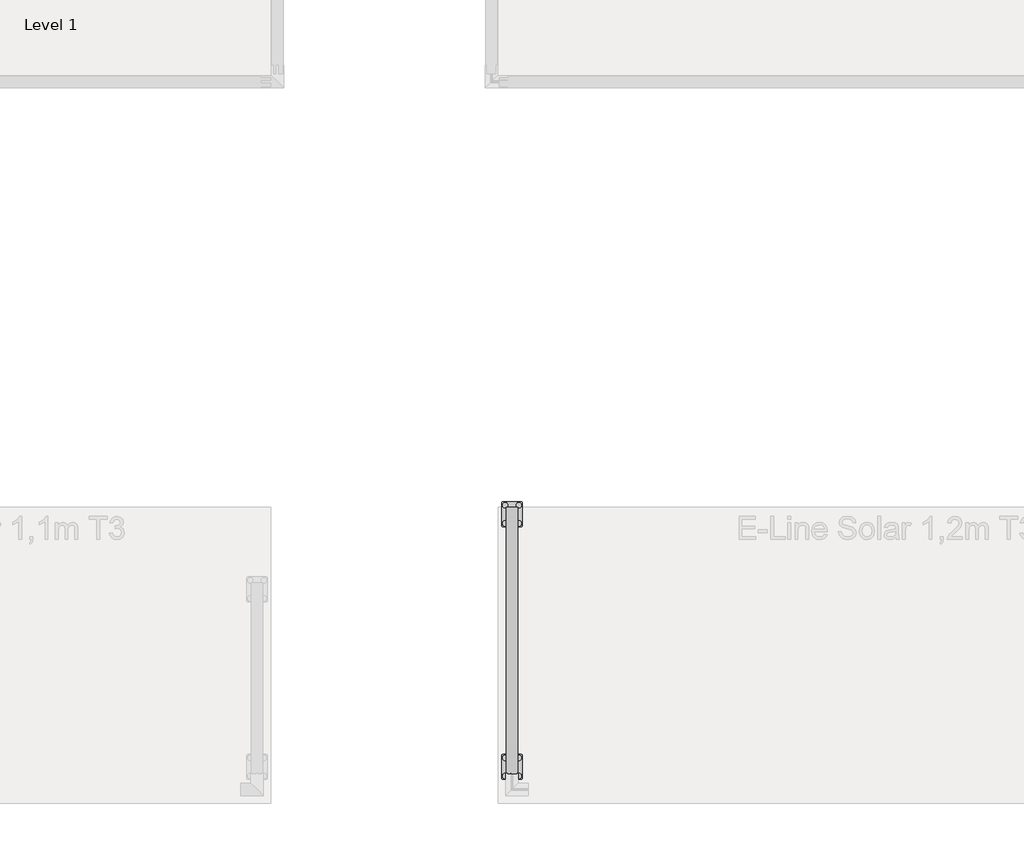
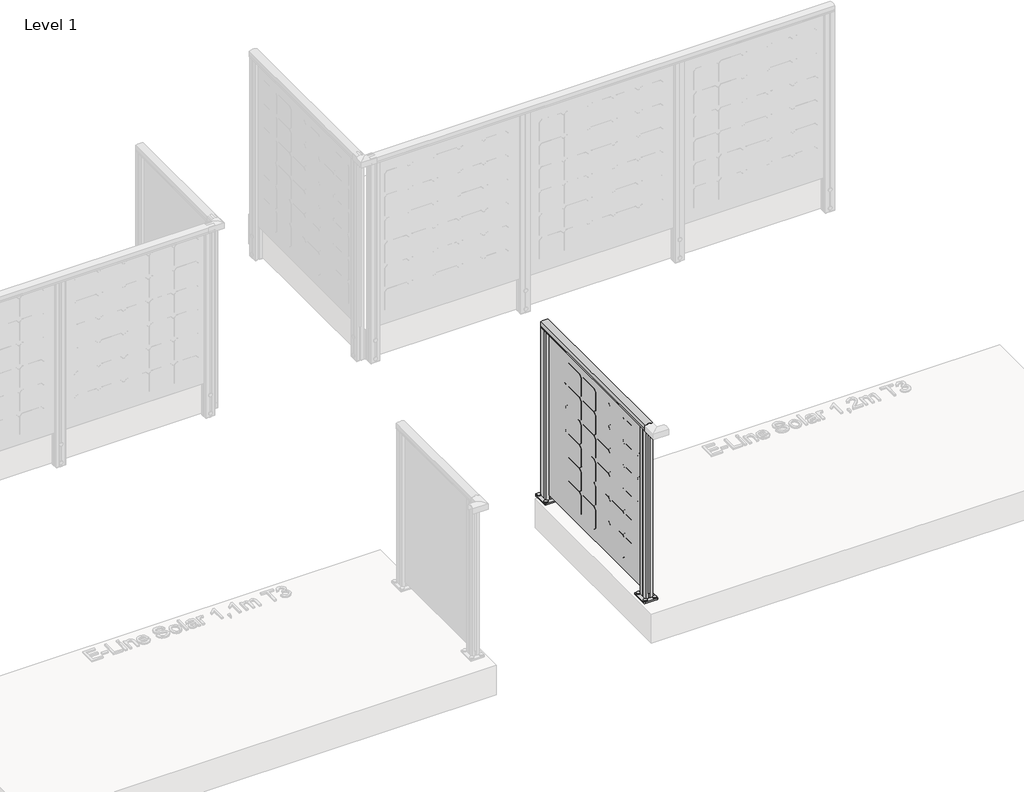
# One storey, part 26 of 66: 1 railing.
"""IFC4 building model written with IfcOpenShell, lengths in millimetres."""

from ifc_helpers import new_model, si_unit, point, frame, frame_2d, origin, origin_with_axes, place, context, project, spatial, polyline, circle_curve, trimmed, segment, composite_curve, outline, extrude, element, save

model = new_model("IFC4")

# Units and contexts
model_context = context("Model", 3, world=origin())
ifc_project = project(units=[si_unit("LENGTHUNIT", "METRE", prefix="MILLI")], contexts=[model_context])

# Site, building, storey
site = spatial("IfcSite", under=ifc_project)
building = spatial("IfcBuilding", under=site)
storey = spatial("IfcBuildingStorey", under=building, Name="Level 1", Elevation=0.0)

# Railing
placement = place(None, origin())
element("IfcRailing", 1, ObjectType="E-Line Solar 1,2m T3 6 columns of solar elements", at=placement, inside=storey, context=model_context, shape_type="SweptSolid", body=[
    extrude(outline(composite_curve([segment(trimmed(circle_curve(frame_2d((1142.6785502, 23357.2511266)), 57.3235687), [point((1194.1390059, 23382.5060869))], [point((1194.1342258, 23331.9864286))], False, "CARTESIAN"), True, "CONTINUOUS"), segment(polyline([(1194.1342258, 23331.9864286), (1167.0235023, 23331.9864286), (1166.4415706, 23332.5683604), (1165.8194895, 23331.9462793), (1157.2498847, 23331.9462793), (1157.2498847, 23333.7512322), (1180.4998829, 23333.7512322), (1180.4998829, 23380.7462783), (1157.2498847, 23380.7462783), (1157.2498847, 23382.5060869), (1165.9694895, 23382.5060869), (1166.5842725, 23381.8913039), (1167.1990555, 23382.5060869), (1194.1390059, 23382.5060869)]), True, "CONTINUOUS")], self_intersect=False)), frame((0.0, -2851.1184021, 0.0), z_axis=(0.0, 1.0, 0.0), x_axis=(0.0, 0.0, 1.0)), (0.0, 0.0, 1.0), 1170.0),
    extrude(outline(polyline([(23352.1463105, -1681.1184021), (23360.9063105, -1681.1184021), (23360.9063105, -2851.1184021), (23352.1463105, -2851.1184021), (23352.1463105, -1681.1184021)])), frame((0.0, 0.0, 40.0), z_axis=(0.0, 0.0, 1.0), x_axis=(1.0, 0.0, 0.0)), (0.0, 0.0, 1.0), 1140.0),
    extrude(outline(polyline([(0.0, 0.0), (16.036927, -16.036927), (16.036927, -139.963073), (0.0, -156.0), (-123.9261459, -156.0), (-139.963073, -139.963073), (-139.963073, -16.036927), (-123.9261459, 0.0), (0.0, 0.0)])), frame((23352.0263105, -1941.6184021, 1059.4156895), z_axis=(1.0, 5.7872079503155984e-12, 0.0), x_axis=(0.0, 0.0, 1.0)), (0.0, 0.0, 1.0), 1.0),
    extrude(outline(polyline([(0.0, 0.0), (16.036927, -16.036927), (16.036927, -139.963073), (0.0, -156.0), (-123.9261459, -156.0), (-139.963073, -139.963073), (-139.963073, -16.036927), (-123.9261459, 0.0), (0.0, 0.0)])), frame((23352.0263105, -2102.6184021, 1059.4156895), z_axis=(1.0, 5.7872079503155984e-12, 0.0), x_axis=(0.0, 0.0, 1.0)), (0.0, 0.0, 1.0), 1.0),
    extrude(outline(polyline([(0.0, 0.0), (16.036927, -16.036927), (16.036927, -139.963073), (0.0, -156.0), (-123.9261459, -156.0), (-139.963073, -139.963073), (-139.963073, -16.036927), (-123.9261459, 0.0), (0.0, 0.0)])), frame((23352.0263105, -2263.6184021, 1059.4156895), z_axis=(1.0, 5.7872079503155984e-12, 0.0), x_axis=(0.0, 0.0, 1.0)), (0.0, 0.0, 1.0), 1.0),
    extrude(outline(polyline([(0.0, 0.0), (16.036927, -16.036927), (16.036927, -139.963073), (0.0, -156.0), (-123.9261459, -156.0), (-139.963073, -139.963073), (-139.963073, -16.036927), (-123.9261459, 0.0), (0.0, 0.0)])), frame((23352.0263105, -2746.6184021, 1059.4156895), z_axis=(1.0, 5.7872079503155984e-12, 0.0), x_axis=(0.0, 0.0, 1.0)), (0.0, 0.0, 1.0), 1.0),
    extrude(outline(polyline([(0.0, 0.0), (16.036927, -16.036927), (16.036927, -139.963073), (0.0, -156.0), (-123.9261459, -156.0), (-139.963073, -139.963073), (-139.963073, -16.036927), (-123.9261459, 0.0), (0.0, 0.0)])), frame((23352.0263105, -2585.6184021, 1059.4156895), z_axis=(1.0, 5.7872079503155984e-12, 0.0), x_axis=(0.0, 0.0, 1.0)), (0.0, 0.0, 1.0), 1.0),
    extrude(outline(polyline([(0.0, 0.0), (16.036927, -16.036927), (16.036927, -139.963073), (0.0, -156.0), (-123.9261459, -156.0), (-139.963073, -139.963073), (-139.963073, -16.036927), (-123.9261459, 0.0), (0.0, 0.0)])), frame((23352.0263105, -2424.6184021, 1059.4156895), z_axis=(1.0, 5.7872079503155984e-12, 0.0), x_axis=(0.0, 0.0, 1.0)), (0.0, 0.0, 1.0), 1.0),
    extrude(outline(polyline([(0.0, 0.0), (16.036927, -16.036927), (16.036927, -139.963073), (0.0, -156.0), (-123.9261459, -156.0), (-139.963073, -139.963073), (-139.963073, -16.036927), (-123.9261459, 0.0), (0.0, 0.0)])), frame((23352.0263105, -1941.6184021, 898.4156895), z_axis=(1.0, 5.7872079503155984e-12, 0.0), x_axis=(0.0, 0.0, 1.0)), (0.0, 0.0, 1.0), 1.0),
    extrude(outline(polyline([(0.0, 0.0), (16.036927, -16.036927), (16.036927, -139.963073), (0.0, -156.0), (-123.9261459, -156.0), (-139.963073, -139.963073), (-139.963073, -16.036927), (-123.9261459, 0.0), (0.0, 0.0)])), frame((23352.0263105, -1941.6184021, 737.4156895), z_axis=(1.0, 5.7872079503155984e-12, 0.0), x_axis=(0.0, 0.0, 1.0)), (0.0, 0.0, 1.0), 1.0),
    extrude(outline(polyline([(0.0, 0.0), (16.036927, -16.036927), (16.036927, -139.963073), (0.0, -156.0), (-123.9261459, -156.0), (-139.963073, -139.963073), (-139.963073, -16.036927), (-123.9261459, 0.0), (0.0, 0.0)])), frame((23352.0263105, -1941.6184021, 576.4156895), z_axis=(1.0, 5.7872079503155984e-12, 0.0), x_axis=(0.0, 0.0, 1.0)), (0.0, 0.0, 1.0), 1.0),
    extrude(outline(polyline([(0.0, 0.0), (16.036927, -16.036927), (16.036927, -139.963073), (0.0, -156.0), (-123.9261459, -156.0), (-139.963073, -139.963073), (-139.963073, -16.036927), (-123.9261459, 0.0), (0.0, 0.0)])), frame((23352.0263105, -1941.6184021, 415.4156895), z_axis=(1.0, 5.7872079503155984e-12, 0.0), x_axis=(0.0, 0.0, 1.0)), (0.0, 0.0, 1.0), 1.0),
    extrude(outline(polyline([(0.0, 0.0), (16.036927, -16.036927), (16.036927, -139.963073), (0.0, -156.0), (-123.9261459, -156.0), (-139.963073, -139.963073), (-139.963073, -16.036927), (-123.9261459, 0.0), (0.0, 0.0)])), frame((23352.0263105, -1941.6184021, 254.4156895), z_axis=(1.0, 5.7872079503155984e-12, 0.0), x_axis=(0.0, 0.0, 1.0)), (0.0, 0.0, 1.0), 1.0),
    extrude(outline(polyline([(0.0, 0.0), (16.036927, -16.036927), (16.036927, -139.963073), (0.0, -156.0), (-123.9261459, -156.0), (-139.963073, -139.963073), (-139.963073, -16.036927), (-123.9261459, 0.0), (0.0, 0.0)])), frame((23352.0263105, -2102.6184021, 898.4156895), z_axis=(1.0, 5.7872079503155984e-12, 0.0), x_axis=(0.0, 0.0, 1.0)), (0.0, 0.0, 1.0), 1.0),
    extrude(outline(polyline([(0.0, 0.0), (16.036927, -16.036927), (16.036927, -139.963073), (0.0, -156.0), (-123.9261459, -156.0), (-139.963073, -139.963073), (-139.963073, -16.036927), (-123.9261459, 0.0), (0.0, 0.0)])), frame((23352.0263105, -2102.6184021, 737.4156895), z_axis=(1.0, 5.7872079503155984e-12, 0.0), x_axis=(0.0, 0.0, 1.0)), (0.0, 0.0, 1.0), 1.0),
    extrude(outline(polyline([(0.0, 0.0), (16.036927, -16.036927), (16.036927, -139.963073), (0.0, -156.0), (-123.9261459, -156.0), (-139.963073, -139.963073), (-139.963073, -16.036927), (-123.9261459, 0.0), (0.0, 0.0)])), frame((23352.0263105, -2102.6184021, 576.4156895), z_axis=(1.0, 5.7872079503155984e-12, 0.0), x_axis=(0.0, 0.0, 1.0)), (0.0, 0.0, 1.0), 1.0),
    extrude(outline(polyline([(0.0, 0.0), (16.036927, -16.036927), (16.036927, -139.963073), (0.0, -156.0), (-123.9261459, -156.0), (-139.963073, -139.963073), (-139.963073, -16.036927), (-123.9261459, 0.0), (0.0, 0.0)])), frame((23352.0263105, -2102.6184021, 415.4156895), z_axis=(1.0, 5.7872079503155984e-12, 0.0), x_axis=(0.0, 0.0, 1.0)), (0.0, 0.0, 1.0), 1.0),
    extrude(outline(polyline([(0.0, 0.0), (16.036927, -16.036927), (16.036927, -139.963073), (0.0, -156.0), (-123.9261459, -156.0), (-139.963073, -139.963073), (-139.963073, -16.036927), (-123.9261459, 0.0), (0.0, 0.0)])), frame((23352.0263105, -2102.6184021, 254.4156895), z_axis=(1.0, 5.7872079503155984e-12, 0.0), x_axis=(0.0, 0.0, 1.0)), (0.0, 0.0, 1.0), 1.0),
    extrude(outline(polyline([(0.0, 0.0), (16.036927, -16.036927), (16.036927, -139.963073), (0.0, -156.0), (-123.9261459, -156.0), (-139.963073, -139.963073), (-139.963073, -16.036927), (-123.9261459, 0.0), (0.0, 0.0)])), frame((23352.0263105, -2263.6184021, 898.4156895), z_axis=(1.0, 5.7872079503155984e-12, 0.0), x_axis=(0.0, 0.0, 1.0)), (0.0, 0.0, 1.0), 1.0),
    extrude(outline(polyline([(0.0, 0.0), (16.036927, -16.036927), (16.036927, -139.963073), (0.0, -156.0), (-123.9261459, -156.0), (-139.963073, -139.963073), (-139.963073, -16.036927), (-123.9261459, 0.0), (0.0, 0.0)])), frame((23352.0263105, -2263.6184021, 737.4156895), z_axis=(1.0, 5.7872079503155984e-12, 0.0), x_axis=(0.0, 0.0, 1.0)), (0.0, 0.0, 1.0), 1.0),
    extrude(outline(polyline([(0.0, 0.0), (16.036927, -16.036927), (16.036927, -139.963073), (0.0, -156.0), (-123.9261459, -156.0), (-139.963073, -139.963073), (-139.963073, -16.036927), (-123.9261459, 0.0), (0.0, 0.0)])), frame((23352.0263105, -2263.6184021, 576.4156895), z_axis=(1.0, 5.7872079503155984e-12, 0.0), x_axis=(0.0, 0.0, 1.0)), (0.0, 0.0, 1.0), 1.0),
    extrude(outline(polyline([(0.0, 0.0), (16.036927, -16.036927), (16.036927, -139.963073), (0.0, -156.0), (-123.9261459, -156.0), (-139.963073, -139.963073), (-139.963073, -16.036927), (-123.9261459, 0.0), (0.0, 0.0)])), frame((23352.0263105, -2263.6184021, 415.4156895), z_axis=(1.0, 5.7872079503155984e-12, 0.0), x_axis=(0.0, 0.0, 1.0)), (0.0, 0.0, 1.0), 1.0),
    extrude(outline(polyline([(0.0, 0.0), (16.036927, -16.036927), (16.036927, -139.963073), (0.0, -156.0), (-123.9261459, -156.0), (-139.963073, -139.963073), (-139.963073, -16.036927), (-123.9261459, 0.0), (0.0, 0.0)])), frame((23352.0263105, -2263.6184021, 254.4156895), z_axis=(1.0, 5.7872079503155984e-12, 0.0), x_axis=(0.0, 0.0, 1.0)), (0.0, 0.0, 1.0), 1.0),
    extrude(outline(polyline([(0.0, 0.0), (16.036927, -16.036927), (16.036927, -139.963073), (0.0, -156.0), (-123.9261459, -156.0), (-139.963073, -139.963073), (-139.963073, -16.036927), (-123.9261459, 0.0), (0.0, 0.0)])), frame((23352.0263105, -2746.6184021, 898.4156895), z_axis=(1.0, 5.7872079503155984e-12, 0.0), x_axis=(0.0, 0.0, 1.0)), (0.0, 0.0, 1.0), 1.0),
    extrude(outline(polyline([(0.0, 0.0), (16.036927, -16.036927), (16.036927, -139.963073), (0.0, -156.0), (-123.9261459, -156.0), (-139.963073, -139.963073), (-139.963073, -16.036927), (-123.9261459, 0.0), (0.0, 0.0)])), frame((23352.0263105, -2746.6184021, 737.4156895), z_axis=(1.0, 5.7872079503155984e-12, 0.0), x_axis=(0.0, 0.0, 1.0)), (0.0, 0.0, 1.0), 1.0),
    extrude(outline(polyline([(0.0, 0.0), (16.036927, -16.036927), (16.036927, -139.963073), (0.0, -156.0), (-123.9261459, -156.0), (-139.963073, -139.963073), (-139.963073, -16.036927), (-123.9261459, 0.0), (0.0, 0.0)])), frame((23352.0263105, -2746.6184021, 576.4156895), z_axis=(1.0, 5.7872079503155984e-12, 0.0), x_axis=(0.0, 0.0, 1.0)), (0.0, 0.0, 1.0), 1.0),
    extrude(outline(polyline([(0.0, 0.0), (16.036927, -16.036927), (16.036927, -139.963073), (0.0, -156.0), (-123.9261459, -156.0), (-139.963073, -139.963073), (-139.963073, -16.036927), (-123.9261459, 0.0), (0.0, 0.0)])), frame((23352.0263105, -2746.6184021, 415.4156895), z_axis=(1.0, 5.7872079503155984e-12, 0.0), x_axis=(0.0, 0.0, 1.0)), (0.0, 0.0, 1.0), 1.0),
    extrude(outline(polyline([(0.0, 0.0), (16.036927, -16.036927), (16.036927, -139.963073), (0.0, -156.0), (-123.9261459, -156.0), (-139.963073, -139.963073), (-139.963073, -16.036927), (-123.9261459, 0.0), (0.0, 0.0)])), frame((23352.0263105, -2746.6184021, 254.4156895), z_axis=(1.0, 5.7872079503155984e-12, 0.0), x_axis=(0.0, 0.0, 1.0)), (0.0, 0.0, 1.0), 1.0),
    extrude(outline(polyline([(0.0, 0.0), (16.036927, -16.036927), (16.036927, -139.963073), (0.0, -156.0), (-123.9261459, -156.0), (-139.963073, -139.963073), (-139.963073, -16.036927), (-123.9261459, 0.0), (0.0, 0.0)])), frame((23352.0263105, -2585.6184021, 898.4156895), z_axis=(1.0, 5.7872079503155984e-12, 0.0), x_axis=(0.0, 0.0, 1.0)), (0.0, 0.0, 1.0), 1.0),
    extrude(outline(polyline([(0.0, 0.0), (16.036927, -16.036927), (16.036927, -139.963073), (0.0, -156.0), (-123.9261459, -156.0), (-139.963073, -139.963073), (-139.963073, -16.036927), (-123.9261459, 0.0), (0.0, 0.0)])), frame((23352.0263105, -2585.6184021, 737.4156895), z_axis=(1.0, 5.7872079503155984e-12, 0.0), x_axis=(0.0, 0.0, 1.0)), (0.0, 0.0, 1.0), 1.0),
    extrude(outline(polyline([(0.0, 0.0), (16.036927, -16.036927), (16.036927, -139.963073), (0.0, -156.0), (-123.9261459, -156.0), (-139.963073, -139.963073), (-139.963073, -16.036927), (-123.9261459, 0.0), (0.0, 0.0)])), frame((23352.0263105, -2585.6184021, 576.4156895), z_axis=(1.0, 5.7872079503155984e-12, 0.0), x_axis=(0.0, 0.0, 1.0)), (0.0, 0.0, 1.0), 1.0),
    extrude(outline(polyline([(0.0, 0.0), (16.036927, -16.036927), (16.036927, -139.963073), (0.0, -156.0), (-123.9261459, -156.0), (-139.963073, -139.963073), (-139.963073, -16.036927), (-123.9261459, 0.0), (0.0, 0.0)])), frame((23352.0263105, -2585.6184021, 415.4156895), z_axis=(1.0, 5.7872079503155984e-12, 0.0), x_axis=(0.0, 0.0, 1.0)), (0.0, 0.0, 1.0), 1.0),
    extrude(outline(polyline([(0.0, 0.0), (16.036927, -16.036927), (16.036927, -139.963073), (0.0, -156.0), (-123.9261459, -156.0), (-139.963073, -139.963073), (-139.963073, -16.036927), (-123.9261459, 0.0), (0.0, 0.0)])), frame((23352.0263105, -2585.6184021, 254.4156895), z_axis=(1.0, 5.7872079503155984e-12, 0.0), x_axis=(0.0, 0.0, 1.0)), (0.0, 0.0, 1.0), 1.0),
    extrude(outline(polyline([(0.0, 0.0), (16.036927, -16.036927), (16.036927, -139.963073), (0.0, -156.0), (-123.9261459, -156.0), (-139.963073, -139.963073), (-139.963073, -16.036927), (-123.9261459, 0.0), (0.0, 0.0)])), frame((23352.0263105, -2424.6184021, 898.4156895), z_axis=(1.0, 5.7872079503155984e-12, 0.0), x_axis=(0.0, 0.0, 1.0)), (0.0, 0.0, 1.0), 1.0),
    extrude(outline(polyline([(0.0, 0.0), (16.036927, -16.036927), (16.036927, -139.963073), (0.0, -156.0), (-123.9261459, -156.0), (-139.963073, -139.963073), (-139.963073, -16.036927), (-123.9261459, 0.0), (0.0, 0.0)])), frame((23352.0263105, -2424.6184021, 737.4156895), z_axis=(1.0, 5.7872079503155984e-12, 0.0), x_axis=(0.0, 0.0, 1.0)), (0.0, 0.0, 1.0), 1.0),
    extrude(outline(polyline([(0.0, 0.0), (16.036927, -16.036927), (16.036927, -139.963073), (0.0, -156.0), (-123.9261459, -156.0), (-139.963073, -139.963073), (-139.963073, -16.036927), (-123.9261459, 0.0), (0.0, 0.0)])), frame((23352.0263105, -2424.6184021, 576.4156895), z_axis=(1.0, 5.7872079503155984e-12, 0.0), x_axis=(0.0, 0.0, 1.0)), (0.0, 0.0, 1.0), 1.0),
    extrude(outline(polyline([(0.0, 0.0), (16.036927, -16.036927), (16.036927, -139.963073), (0.0, -156.0), (-123.9261459, -156.0), (-139.963073, -139.963073), (-139.963073, -16.036927), (-123.9261459, 0.0), (0.0, 0.0)])), frame((23352.0263105, -2424.6184021, 415.4156895), z_axis=(1.0, 5.7872079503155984e-12, 0.0), x_axis=(0.0, 0.0, 1.0)), (0.0, 0.0, 1.0), 1.0),
    extrude(outline(polyline([(0.0, 0.0), (16.036927, -16.036927), (16.036927, -139.963073), (0.0, -156.0), (-123.9261459, -156.0), (-139.963073, -139.963073), (-139.963073, -16.036927), (-123.9261459, 0.0), (0.0, 0.0)])), frame((23352.0263105, -2424.6184021, 254.4156895), z_axis=(1.0, 5.7872079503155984e-12, 0.0), x_axis=(0.0, 0.0, 1.0)), (0.0, 0.0, 1.0), 1.0),
    extrude(outline(composite_curve([segment(trimmed(circle_curve(frame_2d((23326.5263105, -2781.1184021)), 11.9621755), [point((23314.564135, -2781.1184021))], [point((23338.488486, -2781.1184021))], False, "CARTESIAN"), True, "CONTINUOUS"), segment(trimmed(circle_curve(frame_2d((23326.5263105, -2781.1184021)), 11.9621755), [point((23338.488486, -2781.1184021))], [point((23314.564135, -2781.1184021))], False, "CARTESIAN"), True, "CONTINUOUS")], self_intersect=False)), frame((0.0, 0.0, 10.0), z_axis=(0.0, 0.0, 1.0), x_axis=(1.0, 0.0, 0.0)), (0.0, 0.0, 1.0), 5.0),
    extrude(outline(composite_curve([segment(trimmed(circle_curve(frame_2d((23386.5263105, -2781.1184021)), 11.9621755), [point((23374.564135, -2781.1184021))], [point((23398.488486, -2781.1184021))], False, "CARTESIAN"), True, "CONTINUOUS"), segment(trimmed(circle_curve(frame_2d((23386.5263105, -2781.1184021)), 11.9621755), [point((23398.488486, -2781.1184021))], [point((23374.564135, -2781.1184021))], False, "CARTESIAN"), True, "CONTINUOUS")], self_intersect=False)), frame((0.0, 0.0, 10.0), z_axis=(0.0, 0.0, 1.0), x_axis=(1.0, 0.0, 0.0)), (0.0, 0.0, 1.0), 5.0),
    extrude(outline(composite_curve([segment(trimmed(circle_curve(frame_2d((23326.5263105, -2861.1184021)), 11.9621755), [point((23314.564135, -2861.1184021))], [point((23338.488486, -2861.1184021))], False, "CARTESIAN"), True, "CONTINUOUS"), segment(trimmed(circle_curve(frame_2d((23326.5263105, -2861.1184021)), 11.9621755), [point((23338.488486, -2861.1184021))], [point((23314.564135, -2861.1184021))], False, "CARTESIAN"), True, "CONTINUOUS")], self_intersect=False)), frame((0.0, 0.0, 10.0), z_axis=(0.0, 0.0, 1.0), x_axis=(1.0, 0.0, 0.0)), (0.0, 0.0, 1.0), 5.0),
    extrude(outline(composite_curve([segment(trimmed(circle_curve(frame_2d((23386.5263105, -2861.1184021)), 11.9621755), [point((23374.564135, -2861.1184021))], [point((23398.488486, -2861.1184021))], False, "CARTESIAN"), True, "CONTINUOUS"), segment(trimmed(circle_curve(frame_2d((23386.5263105, -2861.1184021)), 11.9621755), [point((23398.488486, -2861.1184021))], [point((23374.564135, -2861.1184021))], False, "CARTESIAN"), True, "CONTINUOUS")], self_intersect=False)), frame((0.0, 0.0, 10.0), z_axis=(0.0, 0.0, 1.0), x_axis=(1.0, 0.0, 0.0)), (0.0, 0.0, 1.0), 5.0),
    extrude(outline(composite_curve([segment(trimmed(circle_curve(frame_2d((23396.5263105, -2771.1184021)), 5.0), [point((23396.5263105, -2766.1184021))], [point((23401.5263105, -2771.1184021))], False, "CARTESIAN"), True, "CONTINUOUS"), segment(polyline([(23401.5263105, -2771.1184021), (23401.5263105, -2871.1184021)]), True, "CONTINUOUS"), segment(trimmed(circle_curve(frame_2d((23396.5263105, -2871.1184021)), 5.0), [point((23401.5263105, -2871.1184021))], [point((23396.5263105, -2876.1184021))], False, "CARTESIAN"), True, "CONTINUOUS"), segment(polyline([(23396.5263105, -2876.1184021), (23316.5263105, -2876.1184021)]), True, "CONTINUOUS"), segment(trimmed(circle_curve(frame_2d((23316.5263105, -2871.1184021)), 5.0), [point((23316.5263105, -2876.1184021))], [point((23311.5263105, -2871.1184021))], False, "CARTESIAN"), True, "CONTINUOUS"), segment(polyline([(23311.5263105, -2871.1184021), (23311.5263105, -2771.1184021)]), True, "CONTINUOUS"), segment(trimmed(circle_curve(frame_2d((23316.5263105, -2771.1184021)), 5.0), [point((23311.5263105, -2771.1184021))], [point((23316.5263105, -2766.1184021))], False, "CARTESIAN"), True, "CONTINUOUS"), segment(polyline([(23316.5263105, -2766.1184021), (23396.5263105, -2766.1184021)]), True, "CONTINUOUS")], self_intersect=False), holes=[composite_curve([segment(trimmed(circle_curve(frame_2d((23386.5263105, -2781.1184021)), 6.25), [point((23380.2763105, -2781.1184021))], [point((23392.7763105, -2781.1184021))], True, "CARTESIAN"), True, "CONTINUOUS"), segment(trimmed(circle_curve(frame_2d((23386.5263105, -2781.1184021)), 6.25), [point((23392.7763105, -2781.1184021))], [point((23380.2763105, -2781.1184021))], True, "CARTESIAN"), True, "CONTINUOUS")], self_intersect=False), composite_curve([segment(trimmed(circle_curve(frame_2d((23326.5263105, -2781.1184021)), 6.25), [point((23320.2763105, -2781.1184021))], [point((23332.7763105, -2781.1184021))], True, "CARTESIAN"), True, "CONTINUOUS"), segment(trimmed(circle_curve(frame_2d((23326.5263105, -2781.1184021)), 6.25), [point((23332.7763105, -2781.1184021))], [point((23320.2763105, -2781.1184021))], True, "CARTESIAN"), True, "CONTINUOUS")], self_intersect=False), composite_curve([segment(trimmed(circle_curve(frame_2d((23326.5263105, -2861.1184021)), 6.25), [point((23320.2763105, -2861.1184021))], [point((23332.7763105, -2861.1184021))], True, "CARTESIAN"), True, "CONTINUOUS"), segment(trimmed(circle_curve(frame_2d((23326.5263105, -2861.1184021)), 6.25), [point((23332.7763105, -2861.1184021))], [point((23320.2763105, -2861.1184021))], True, "CARTESIAN"), True, "CONTINUOUS")], self_intersect=False), composite_curve([segment(trimmed(circle_curve(frame_2d((23386.5263105, -2861.1184021)), 6.25), [point((23380.2763105, -2861.1184021))], [point((23392.7763105, -2861.1184021))], True, "CARTESIAN"), True, "CONTINUOUS"), segment(trimmed(circle_curve(frame_2d((23386.5263105, -2861.1184021)), 6.25), [point((23392.7763105, -2861.1184021))], [point((23380.2763105, -2861.1184021))], True, "CARTESIAN"), True, "CONTINUOUS")], self_intersect=False)]), origin_with_axes(), (0.0, 0.0, 1.0), 10.0),
    extrude(outline(polyline([(23352.1804485, -2851.116809), (23334.0354487, -2851.1194812), (23334.0311828, -2822.1524942), (23335.0593241, -2821.12405), (23334.0709345, -2820.1359515), (23334.0666613, -2791.119476), (23352.1716124, -2791.1168097), (23352.1741896, -2808.6168095), (23360.9341895, -2808.6155194), (23360.9316123, -2791.1155196), (23379.0266121, -2791.1128548), (23379.030878, -2820.0798417), (23378.1125457, -2821.1177096), (23378.9909678, -2821.995873), (23378.9952559, -2851.11286), (23360.9404484, -2851.1155189), (23360.9378712, -2833.6155191), (23352.1778713, -2833.6168092), (23352.1804485, -2851.116809)]), holes=[polyline([(23377.0323262, -2812.3191871), (23336.0297347, -2812.3191871), (23336.0297347, -2829.9131488), (23377.0323262, -2829.9131488), (23377.0323262, -2812.3191871)]), polyline([(23350.17444, -2793.1191873), (23336.0269071, -2793.1191873), (23336.0269071, -2810.317104), (23350.17444, -2810.317104), (23350.17444, -2793.1191873)]), polyline([(23377.0323262, -2793.115225), (23362.9319068, -2793.115225), (23362.9319068, -2810.3131487), (23377.0323262, -2810.3131487), (23377.0323262, -2793.115225)]), polyline([(23350.180154, -2831.9191868), (23336.0326211, -2831.9191868), (23336.0326211, -2849.1171035), (23350.180154, -2849.1171035), (23350.180154, -2831.9191868)]), polyline([(23377.0851537, -2831.9152246), (23362.9376209, -2831.9152246), (23362.9376209, -2849.1131413), (23377.0851537, -2849.1131413), (23377.0851537, -2831.9152246)])]), frame((0.0, 0.0, 10.0), z_axis=(0.0, 0.0, 1.0), x_axis=(1.0, 0.0, 0.0)), (0.0, 0.0, 1.0), 1171.0),
    extrude(outline(composite_curve([segment(trimmed(circle_curve(frame_2d((23326.5263105, -1671.1184021)), 11.9621755), [point((23314.564135, -1671.1184021))], [point((23338.488486, -1671.1184021))], False, "CARTESIAN"), True, "CONTINUOUS"), segment(trimmed(circle_curve(frame_2d((23326.5263105, -1671.1184021)), 11.9621755), [point((23338.488486, -1671.1184021))], [point((23314.564135, -1671.1184021))], False, "CARTESIAN"), True, "CONTINUOUS")], self_intersect=False)), frame((0.0, 0.0, 10.0), z_axis=(0.0, 0.0, 1.0), x_axis=(1.0, 0.0, 0.0)), (0.0, 0.0, 1.0), 5.0),
    extrude(outline(composite_curve([segment(trimmed(circle_curve(frame_2d((23386.5263105, -1671.1184021)), 11.9621755), [point((23374.564135, -1671.1184021))], [point((23398.488486, -1671.1184021))], False, "CARTESIAN"), True, "CONTINUOUS"), segment(trimmed(circle_curve(frame_2d((23386.5263105, -1671.1184021)), 11.9621755), [point((23398.488486, -1671.1184021))], [point((23374.564135, -1671.1184021))], False, "CARTESIAN"), True, "CONTINUOUS")], self_intersect=False)), frame((0.0, 0.0, 10.0), z_axis=(0.0, 0.0, 1.0), x_axis=(1.0, 0.0, 0.0)), (0.0, 0.0, 1.0), 5.0),
    extrude(outline(composite_curve([segment(trimmed(circle_curve(frame_2d((23326.5263105, -1751.1184021)), 11.9621755), [point((23314.564135, -1751.1184021))], [point((23338.488486, -1751.1184021))], False, "CARTESIAN"), True, "CONTINUOUS"), segment(trimmed(circle_curve(frame_2d((23326.5263105, -1751.1184021)), 11.9621755), [point((23338.488486, -1751.1184021))], [point((23314.564135, -1751.1184021))], False, "CARTESIAN"), True, "CONTINUOUS")], self_intersect=False)), frame((0.0, 0.0, 10.0), z_axis=(0.0, 0.0, 1.0), x_axis=(1.0, 0.0, 0.0)), (0.0, 0.0, 1.0), 5.0),
    extrude(outline(composite_curve([segment(trimmed(circle_curve(frame_2d((23386.5263105, -1751.1184021)), 11.9621755), [point((23374.564135, -1751.1184021))], [point((23398.488486, -1751.1184021))], False, "CARTESIAN"), True, "CONTINUOUS"), segment(trimmed(circle_curve(frame_2d((23386.5263105, -1751.1184021)), 11.9621755), [point((23398.488486, -1751.1184021))], [point((23374.564135, -1751.1184021))], False, "CARTESIAN"), True, "CONTINUOUS")], self_intersect=False)), frame((0.0, 0.0, 10.0), z_axis=(0.0, 0.0, 1.0), x_axis=(1.0, 0.0, 0.0)), (0.0, 0.0, 1.0), 5.0),
    extrude(outline(composite_curve([segment(trimmed(circle_curve(frame_2d((23396.5263105, -1661.1184021)), 5.0), [point((23396.5263105, -1656.1184021))], [point((23401.5263105, -1661.1184021))], False, "CARTESIAN"), True, "CONTINUOUS"), segment(polyline([(23401.5263105, -1661.1184021), (23401.5263105, -1761.1184021)]), True, "CONTINUOUS"), segment(trimmed(circle_curve(frame_2d((23396.5263105, -1761.1184021)), 5.0), [point((23401.5263105, -1761.1184021))], [point((23396.5263105, -1766.1184021))], False, "CARTESIAN"), True, "CONTINUOUS"), segment(polyline([(23396.5263105, -1766.1184021), (23316.5263105, -1766.1184021)]), True, "CONTINUOUS"), segment(trimmed(circle_curve(frame_2d((23316.5263105, -1761.1184021)), 5.0), [point((23316.5263105, -1766.1184021))], [point((23311.5263105, -1761.1184021))], False, "CARTESIAN"), True, "CONTINUOUS"), segment(polyline([(23311.5263105, -1761.1184021), (23311.5263105, -1661.1184021)]), True, "CONTINUOUS"), segment(trimmed(circle_curve(frame_2d((23316.5263105, -1661.1184021)), 5.0), [point((23311.5263105, -1661.1184021))], [point((23316.5263105, -1656.1184021))], False, "CARTESIAN"), True, "CONTINUOUS"), segment(polyline([(23316.5263105, -1656.1184021), (23396.5263105, -1656.1184021)]), True, "CONTINUOUS")], self_intersect=False), holes=[composite_curve([segment(trimmed(circle_curve(frame_2d((23386.5263105, -1671.1184021)), 6.25), [point((23380.2763105, -1671.1184021))], [point((23392.7763105, -1671.1184021))], True, "CARTESIAN"), True, "CONTINUOUS"), segment(trimmed(circle_curve(frame_2d((23386.5263105, -1671.1184021)), 6.25), [point((23392.7763105, -1671.1184021))], [point((23380.2763105, -1671.1184021))], True, "CARTESIAN"), True, "CONTINUOUS")], self_intersect=False), composite_curve([segment(trimmed(circle_curve(frame_2d((23326.5263105, -1671.1184021)), 6.25), [point((23320.2763105, -1671.1184021))], [point((23332.7763105, -1671.1184021))], True, "CARTESIAN"), True, "CONTINUOUS"), segment(trimmed(circle_curve(frame_2d((23326.5263105, -1671.1184021)), 6.25), [point((23332.7763105, -1671.1184021))], [point((23320.2763105, -1671.1184021))], True, "CARTESIAN"), True, "CONTINUOUS")], self_intersect=False), composite_curve([segment(trimmed(circle_curve(frame_2d((23326.5263105, -1751.1184021)), 6.25), [point((23320.2763105, -1751.1184021))], [point((23332.7763105, -1751.1184021))], True, "CARTESIAN"), True, "CONTINUOUS"), segment(trimmed(circle_curve(frame_2d((23326.5263105, -1751.1184021)), 6.25), [point((23332.7763105, -1751.1184021))], [point((23320.2763105, -1751.1184021))], True, "CARTESIAN"), True, "CONTINUOUS")], self_intersect=False), composite_curve([segment(trimmed(circle_curve(frame_2d((23386.5263105, -1751.1184021)), 6.25), [point((23380.2763105, -1751.1184021))], [point((23392.7763105, -1751.1184021))], True, "CARTESIAN"), True, "CONTINUOUS"), segment(trimmed(circle_curve(frame_2d((23386.5263105, -1751.1184021)), 6.25), [point((23392.7763105, -1751.1184021))], [point((23380.2763105, -1751.1184021))], True, "CARTESIAN"), True, "CONTINUOUS")], self_intersect=False)]), origin_with_axes(), (0.0, 0.0, 1.0), 10.0),
    extrude(outline(polyline([(23352.1804485, -1741.116809), (23334.0354487, -1741.1194812), (23334.0311828, -1712.1524942), (23335.0593241, -1711.12405), (23334.0709345, -1710.1359515), (23334.0666613, -1681.119476), (23352.1716124, -1681.1168097), (23352.1741896, -1698.6168095), (23360.9341895, -1698.6155194), (23360.9316123, -1681.1155196), (23379.0266121, -1681.1128548), (23379.030878, -1710.0798417), (23378.1125457, -1711.1177096), (23378.9909678, -1711.995873), (23378.9952559, -1741.11286), (23360.9404484, -1741.1155189), (23360.9378712, -1723.6155191), (23352.1778713, -1723.6168092), (23352.1804485, -1741.116809)]), holes=[polyline([(23377.0323262, -1702.3191871), (23336.0297347, -1702.3191871), (23336.0297347, -1719.9131488), (23377.0323262, -1719.9131488), (23377.0323262, -1702.3191871)]), polyline([(23350.17444, -1683.1191873), (23336.0269071, -1683.1191873), (23336.0269071, -1700.317104), (23350.17444, -1700.317104), (23350.17444, -1683.1191873)]), polyline([(23377.0323262, -1683.115225), (23362.9319068, -1683.115225), (23362.9319068, -1700.3131487), (23377.0323262, -1700.3131487), (23377.0323262, -1683.115225)]), polyline([(23350.180154, -1721.9191868), (23336.0326211, -1721.9191868), (23336.0326211, -1739.1171035), (23350.180154, -1739.1171035), (23350.180154, -1721.9191868)]), polyline([(23377.0851537, -1721.9152246), (23362.9376209, -1721.9152246), (23362.9376209, -1739.1131413), (23377.0851537, -1739.1131413), (23377.0851537, -1721.9152246)])]), frame((0.0, 0.0, 10.0), z_axis=(0.0, 0.0, 1.0), x_axis=(1.0, 0.0, 0.0)), (0.0, 0.0, 1.0), 1171.0),
])

save(model, "model.ifc")
